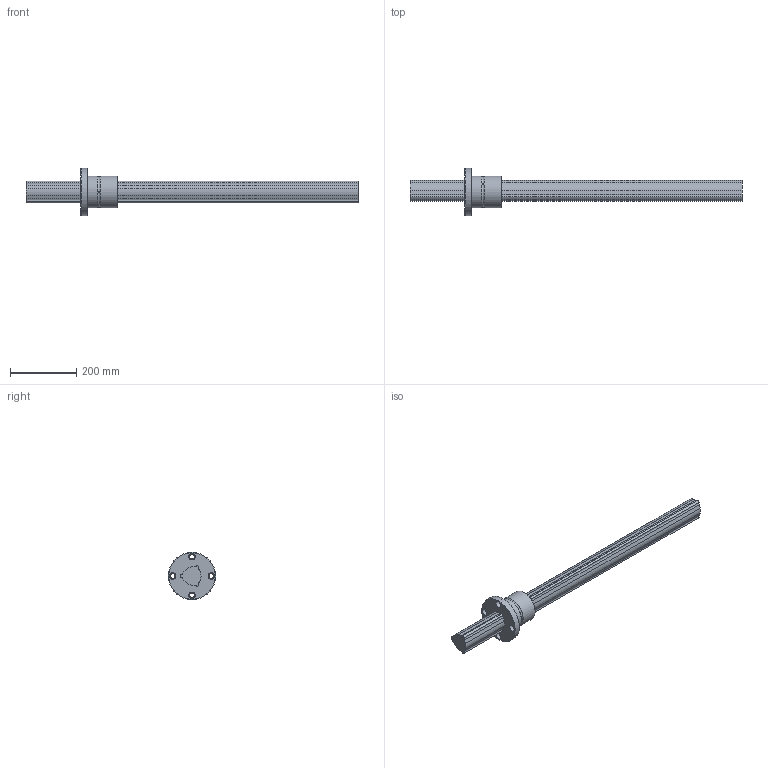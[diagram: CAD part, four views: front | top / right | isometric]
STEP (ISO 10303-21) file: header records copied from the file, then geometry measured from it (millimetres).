
FILE_DESCRIPTION(/* description */ ('STEP AP214'),/* implementation_level */ '2;1');
FILE_NAME(/* name */ 'LBF70+1000L(10001650)',/* time_stamp */ '2024-09-04T13:03:21+02:00',/* author */ ('License CC BY-ND 4.0'),/* organization */ ('CADENAS'),/* preprocessor_version */ 'ST-DEVELOPER v19.3',/* originating_system */ 'PARTsolutions',/* authorisation */ ' ');
FILE_SCHEMA (('AUTOMOTIVE_DESIGN {1 0 10303 214 3 1 1}'));
Length unit declared in the file: millimetre
Products named in the file (3): LBF70+1000L(10001650); LBF7011000 Spline Shaft; LBF70 Nut
Assembly tree (2 placements, depth 2):
  LBF70+1000L(10001650)
    LBF7011000 Spline Shaft
    LBF70 Nut
Bounding box: 1000 x 142 x 142 mm (x, y, z)
Volume: 3273800.1 mm3; surface area: 297310.1 mm2
Topology: 2 solids, 2 shells, 66 faces, 164 edges, 110 vertices
Faces by surface type: cylinder 38, plane 24, torus 2, cone 2
Full cylindrical faces by diameter (mm): 4 x3, 14 x4, 20 x4, 95 x2, 142 x1
Entity records: 1986 total; most frequent: CARTESIAN_POINT 361, DIRECTION 350, ORIENTED_EDGE 278, AXIS2_PLACEMENT_3D 145, EDGE_CURVE 139, VERTEX_POINT 103, EDGE_LOOP 102, FACE_BOUND 102
